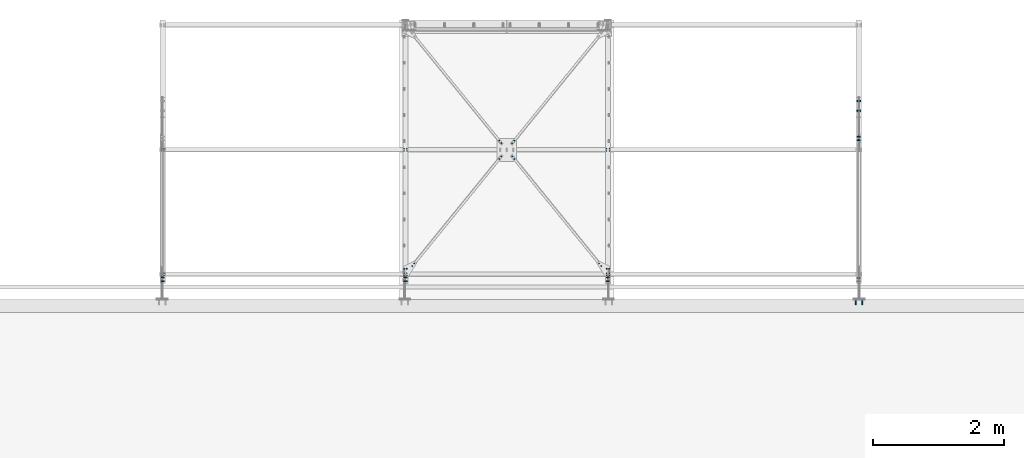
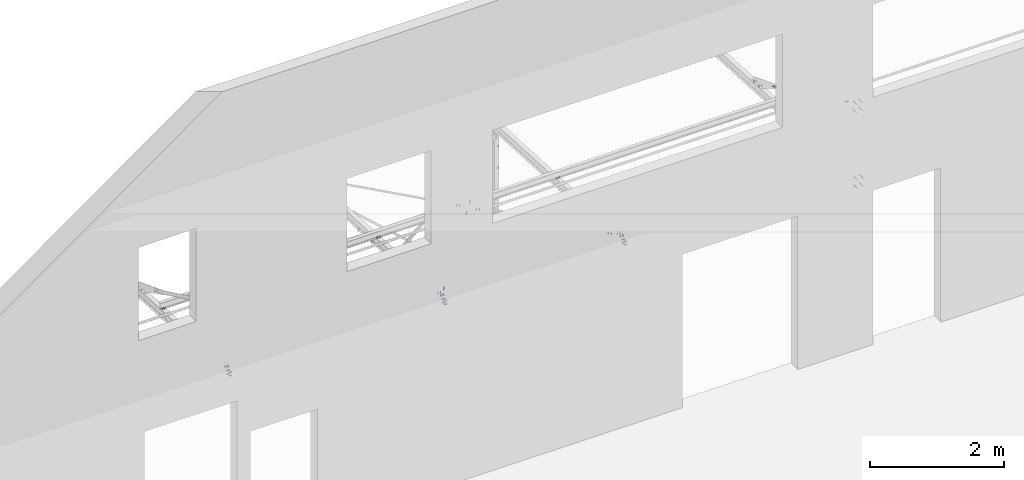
# One storey, part 7 of 10: 31 mechanical fasteners.
"""IFC2X3 building model written with IfcOpenShell, lengths in millimetres."""

from ifc_helpers import new_model, si_unit, frame, origin_with_axes, origin_2d_with_axis, place, context, subcontext, project, spatial, polyline, circle, outline, extrude, source, transform, mapped, material, type_object, element, save


model = new_model("IFC2X3")

# Units and contexts
model_context = context("Model", 3, precision=1e-05, world=origin_with_axes())
body_context = subcontext(model_context, "Body", "Model", "MODEL_VIEW")
ifc_project = project(units=[si_unit("LENGTHUNIT", "METRE", prefix="MILLI"), si_unit("AREAUNIT", "SQUARE_METRE"), si_unit("VOLUMEUNIT", "CUBIC_METRE"), si_unit("MASSUNIT", "GRAM", prefix="KILO"), si_unit("TIMEUNIT", "SECOND"), si_unit("PLANEANGLEUNIT", "RADIAN"), si_unit("SOLIDANGLEUNIT", "STERADIAN"), si_unit("THERMODYNAMICTEMPERATUREUNIT", "DEGREE_CELSIUS"), si_unit("LUMINOUSINTENSITYUNIT", "LUMEN")], contexts=[model_context])

# Site, building, storey
site_placement = place(None, origin_with_axes())
site = spatial("IfcSite", under=ifc_project, at=site_placement, Name="Undefined", CompositionType="ELEMENT")
building_placement = place(site_placement, origin_with_axes())
building = spatial("IfcBuilding", under=site, at=building_placement, Name="Undefined", CompositionType="ELEMENT")
storey_placement = place(building_placement, origin_with_axes())
storey = spatial("IfcBuildingStorey", under=building, at=storey_placement, Name="Undefined", CompositionType="ELEMENT", Elevation=0.0)

# Mechanical fasteners
ifc_material_1 = material(Name="6.8")
mechanical_fastener_type = type_object("IfcMechanicalFastenerType", Name="Bolt assembly")
shared_shape_1 = source(origin_with_axes(), body_context, "Body", "SweptSolid", [
    extrude(circle(Radius=6.0, at=origin_2d_with_axis()), frame((0.0, -0.100005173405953, 0.0), z_axis=(0.0, 1.0, 0.0), x_axis=(1.0, 0.0, 0.0)), (0.0, 0.0, 1.0), 7.5),
    extrude(circle(Radius=6.0, at=origin_2d_with_axis()), frame((0.0, -2.4000000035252, 0.0), z_axis=(0.0, 1.0, 0.0), x_axis=(1.0, 0.0, 0.0)), (0.0, 0.0, 1.0), 5.0),
    extrude(outline(polyline([(9.81495457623, 0.0), (4.907477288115, 8.5000000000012), (-4.907477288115, 8.5000000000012), (-9.81495457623, 0.0), (-4.907477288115, -8.5000000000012), (4.907477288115, -8.5000000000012), (9.81495457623, 0.0)])), frame((0.0, -9.99999892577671, 0.0), z_axis=(0.0, 1.0, 0.0), x_axis=(1.0, 0.0, 0.0)), (0.0, 0.0, 1.0), 7.5),
    extrude(circle(Radius=5.0, at=origin_2d_with_axis()), frame((0.0, -2.5000000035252, 0.0), z_axis=(0.0, 1.0, 0.0), x_axis=(1.0, 0.0, 0.0)), (0.0, 0.0, 1.0), 30.0),
    extrude(outline(polyline([(9.23760430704, 0.0), (4.61880215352, 8.00000000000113), (-4.61880215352, 8.00000000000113), (-9.23760430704, 0.0), (-4.61880215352, -8.00000000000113), (4.61880215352, -8.00000000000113), (9.23760430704, 0.0)])), frame((0.0, 7.40000130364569, 0.0), z_axis=(0.0, 1.0, 0.0), x_axis=(1.0, 0.0, 0.0)), (0.0, 0.0, 1.0), 8.4),
])
for number, where, z_axis, x_axis, name in (
    (1, (28902.9999597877, 25511.1982734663, 3033.3181840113), (1.0, 0.0, 0.0), (0.0, -0.998630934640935, 0.0523092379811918), "Bolt assembly"),
    (2, (32002.9999597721, 25511.1982472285, 3033.31818538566), (1.0, 0.0, 0.0), (0.0, -0.998630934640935, 0.0523092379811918), "Bolt assembly"),
):
    element("IfcMechanicalFastener", number, at=place(storey_placement, frame(where, z_axis=z_axis, x_axis=x_axis)), inside=storey, type_object=mechanical_fastener_type, material=ifc_material_1, Name=name, NominalDiameter=10.0, NominalLength=30.0, context=body_context, shape_type="MappedRepresentation", body=[
        mapped(shared_shape_1, transform((0.0, 0.0, -21.0))),
        mapped(shared_shape_1, transform((0.0, 0.0, 21.0))),
    ])
ifc_material_2 = material(Name="8.8-SB-GALVA")
shared_shape_2 = source(origin_with_axes(), body_context, "Body", "SweptSolid", [
    extrude(circle(Radius=7.0, at=origin_2d_with_axis()), frame((0.0, -6.89999965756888, 0.0), z_axis=(0.0, 1.0, 0.0), x_axis=(1.0, 0.0, 0.0)), (0.0, 0.0, 1.0), 4.0),
    extrude(circle(Radius=7.0, at=origin_2d_with_axis()), frame((0.0, -2.60000006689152, 0.0), z_axis=(0.0, 1.0, 0.0), x_axis=(1.0, 0.0, 0.0)), (0.0, 0.0, 1.0), 5.1),
    extrude(outline(polyline([(10.39230484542, 0.0), (5.19615242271, 9.00000000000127), (-5.19615242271, 9.00000000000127), (-10.39230484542, 0.0), (-5.19615242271, -9.00000000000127), (5.19615242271, -9.00000000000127), (10.39230484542, 0.0)])), frame((0.0, -14.9199996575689, 0.0), z_axis=(0.0, 1.0, 0.0), x_axis=(1.0, 0.0, 0.0)), (0.0, 0.0, 1.0), 7.92),
    extrude(circle(Radius=6.0, at=origin_2d_with_axis()), frame((0.0, -6.99999965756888, 0.0), z_axis=(0.0, 1.0, 0.0), x_axis=(1.0, 0.0, 0.0)), (0.0, 0.0, 1.0), 30.0),
    extrude(outline(polyline([(11.5008173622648, 0.0), (5.7504086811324, 9.96000000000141), (-5.7504086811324, 9.96000000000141), (-11.5008173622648, 0.0), (-5.7504086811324, -9.96000000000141), (5.7504086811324, -9.96000000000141), (11.5008173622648, 0.0)])), frame((0.0, 2.49999993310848, 0.0), z_axis=(0.0, 1.0, 0.0), x_axis=(1.0, 0.0, 0.0)), (0.0, 0.0, 1.0), 7.92),
])
for number, where, z_axis, x_axis, name in (
    (3, (29006.789686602, 25552.9467329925, 3031.13135888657), (-0.776487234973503, 0.629270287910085, -0.0329617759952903), (0.630132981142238, 0.775424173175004, -0.0406174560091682), "Bolt assembly"),
    (4, (31899.2102518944, 25552.9467522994, 3031.13135787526), (-0.776487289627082, -0.629270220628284, 0.032961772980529), (-0.63013291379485, 0.77542422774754, -0.0406174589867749), "Bolt assembly"),
):
    element("IfcMechanicalFastener", number, at=place(storey_placement, frame(where, z_axis=z_axis, x_axis=x_axis)), inside=storey, type_object=mechanical_fastener_type, material=ifc_material_2, Name=name, NominalDiameter=12.0, NominalLength=30.0, context=body_context, shape_type="MappedRepresentation", body=[
        mapped(shared_shape_2, transform((0.0, 0.0, 0.0))),
        mapped(shared_shape_2, transform((50.00000000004, 0.0, 1.45519152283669e-10))),
    ])
shared_shape_3 = source(origin_with_axes(), body_context, "Body", "SweptSolid", [
    extrude(circle(Radius=7.0, at=origin_2d_with_axis()), frame((0.0, -6.89999965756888, 0.0), z_axis=(0.0, 1.0, 0.0), x_axis=(1.0, 0.0, 0.0)), (0.0, 0.0, 1.0), 4.0),
    extrude(circle(Radius=7.0, at=origin_2d_with_axis()), frame((0.0, -0.100005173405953, 0.0), z_axis=(0.0, 1.0, 0.0), x_axis=(1.0, 0.0, 0.0)), (0.0, 0.0, 1.0), 5.1),
    extrude(outline(polyline([(10.39230484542, 0.0), (5.19615242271, 9.00000000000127), (-5.19615242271, 9.00000000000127), (-10.39230484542, 0.0), (-5.19615242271, -9.00000000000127), (5.19615242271, -9.00000000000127), (10.39230484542, 0.0)])), frame((0.0, -14.9199996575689, 0.0), z_axis=(0.0, 1.0, 0.0), x_axis=(1.0, 0.0, 0.0)), (0.0, 0.0, 1.0), 7.92),
    extrude(circle(Radius=6.0, at=origin_2d_with_axis()), frame((0.0, -6.99999965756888, 0.0), z_axis=(0.0, 1.0, 0.0), x_axis=(1.0, 0.0, 0.0)), (0.0, 0.0, 1.0), 30.0),
    extrude(outline(polyline([(11.5008173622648, 0.0), (5.7504086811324, 9.96000000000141), (-5.7504086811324, 9.96000000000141), (-11.5008173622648, 0.0), (-5.7504086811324, -9.96000000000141), (5.7504086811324, -9.96000000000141), (11.5008173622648, 0.0)])), frame((0.0, 4.99999482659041, 0.0), z_axis=(0.0, 1.0, 0.0), x_axis=(1.0, 0.0, 0.0)), (0.0, 0.0, 1.0), 7.92),
])
for number, where, z_axis, x_axis, name in (
    (5, (30536.4557555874, 27229.9146393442, 2943.29018419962), (0.776487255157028, 0.629270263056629, -0.0329617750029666), (0.630132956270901, -0.775424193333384, 0.0406174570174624), "Bolt assembly"),
    (6, (30536.4557762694, 27435.3114565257, 2932.53130346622), (-0.776487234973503, 0.629270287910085, -0.0329617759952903), (0.630132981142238, 0.775424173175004, -0.0406174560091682), "Bolt assembly"),
    (7, (30369.5441302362, 27435.3114557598, 2932.53130350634), (-0.776487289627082, -0.629270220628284, 0.032961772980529), (-0.63013291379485, 0.77542422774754, -0.0406174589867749), "Bolt assembly"),
    (8, (30369.544155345, 27229.9146377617, 2943.29018428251), (0.776487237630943, -0.629270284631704, 0.0329617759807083), (-0.630132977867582, -0.775424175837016, 0.0406174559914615), "Bolt assembly"),
):
    element("IfcMechanicalFastener", number, at=place(storey_placement, frame(where, z_axis=z_axis, x_axis=x_axis)), inside=storey, type_object=mechanical_fastener_type, material=ifc_material_2, Name=name, NominalDiameter=12.0, NominalLength=30.0, context=body_context, shape_type="MappedRepresentation", body=[
        mapped(shared_shape_3, transform((0.0, 0.0, 0.0))),
        mapped(shared_shape_3, transform((50.00000000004, 0.0, 1.45519152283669e-10))),
    ])
shared_shape_4 = source(origin_with_axes(), body_context, "Body", "SweptSolid", [
    extrude(circle(Radius=6.0, at=origin_2d_with_axis()), frame((0.0, -0.100005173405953, 0.0), z_axis=(0.0, 1.0, 0.0), x_axis=(1.0, 0.0, 0.0)), (0.0, 0.0, 1.0), 7.5),
    extrude(circle(Radius=6.0, at=origin_2d_with_axis()), frame((0.0, -6.19999893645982, 0.0), z_axis=(0.0, 1.0, 0.0), x_axis=(1.0, 0.0, 0.0)), (0.0, 0.0, 1.0), 6.3),
    extrude(outline(polyline([(9.81495457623, 0.0), (4.907477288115, 8.5000000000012), (-4.907477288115, 8.5000000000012), (-9.81495457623, 0.0), (-4.907477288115, -8.5000000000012), (4.907477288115, -8.5000000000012), (9.81495457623, 0.0)])), frame((0.0, -13.7999989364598, 0.0), z_axis=(0.0, 1.0, 0.0), x_axis=(1.0, 0.0, 0.0)), (0.0, 0.0, 1.0), 7.5),
    extrude(circle(Radius=5.0, at=origin_2d_with_axis()), frame((0.0, -6.29999893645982, 0.0), z_axis=(0.0, 1.0, 0.0), x_axis=(1.0, 0.0, 0.0)), (0.0, 0.0, 1.0), 30.0),
    extrude(outline(polyline([(9.23760430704, 0.0), (4.61880215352, 8.00000000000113), (-4.61880215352, 8.00000000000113), (-9.23760430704, 0.0), (-4.61880215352, -8.00000000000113), (4.61880215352, -8.00000000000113), (9.23760430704, 0.0)])), frame((0.0, 7.40000130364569, 0.0), z_axis=(0.0, 1.0, 0.0), x_axis=(1.0, 0.0, 0.0)), (0.0, 0.0, 1.0), 8.4),
])
for number, where, z_axis, x_axis, name in (
    (9, (25163.9999692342, 25425.2259809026, 3037.82149495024), (-6.99999093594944e-09, 0.998630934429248, -0.0523092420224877), (1.0, 0.0, 0.0), "Bolt assembly"),
    (10, (25163.9999692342, 27332.6130088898, 2937.91074741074), (-6.99999093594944e-09, 0.998630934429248, -0.0523092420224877), (1.0, 0.0, 0.0), "Bolt assembly"),
    (11, (28881.9999389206, 27332.6130361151, 2937.91074598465), (-6.99999093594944e-09, 0.998630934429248, -0.0523092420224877), (1.0, 0.0, 0.0), "Bolt assembly"),
    (12, (32023.9999692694, 27332.6130583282, 2937.91074482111), (0.0, -0.998630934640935, 0.0523092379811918), (-1.0, 0.0, 0.0), "Bolt assembly"),
):
    element("IfcMechanicalFastener", number, at=place(storey_placement, frame(where, z_axis=z_axis, x_axis=x_axis)), inside=storey, type_object=mechanical_fastener_type, material=ifc_material_1, Name=name, NominalDiameter=10.0, NominalLength=30.0, context=body_context, shape_type="MappedRepresentation", body=[
        mapped(shared_shape_4, transform((0.0, 3.18323145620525e-11, -16.9999999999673))),
        mapped(shared_shape_4, transform((42.0, 3.18323145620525e-11, -16.9999999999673))),
        mapped(shared_shape_4, transform((0.0, -3.18323145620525e-11, 16.9999999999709))),
        mapped(shared_shape_4, transform((42.0, -3.18323145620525e-11, 16.9999999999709))),
    ])
shared_shape_5 = source(origin_with_axes(), body_context, "Body", "SweptSolid", [
    extrude(circle(Radius=6.0, at=origin_2d_with_axis()), frame((0.0, -0.100005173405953, 0.0), z_axis=(0.0, 1.0, 0.0), x_axis=(1.0, 0.0, 0.0)), (0.0, 0.0, 1.0), 7.5),
    extrude(circle(Radius=6.0, at=origin_2d_with_axis()), frame((0.0, -6.19999893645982, 0.0), z_axis=(0.0, 1.0, 0.0), x_axis=(1.0, 0.0, 0.0)), (0.0, 0.0, 1.0), 6.3),
    extrude(circle(Radius=6.0, at=origin_2d_with_axis()), frame((0.0, -2.5000000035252, 0.0), z_axis=(0.0, 1.0, 0.0), x_axis=(1.0, 0.0, 0.0)), (0.0, 0.0, 1.0), 5.0),
    extrude(outline(polyline([(9.81495457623, 0.0), (4.907477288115, 8.5000000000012), (-4.907477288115, 8.5000000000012), (-9.81495457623, 0.0), (-4.907477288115, -8.5000000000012), (4.907477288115, -8.5000000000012), (9.81495457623, 0.0)])), frame((0.0, -13.7999989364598, 0.0), z_axis=(0.0, 1.0, 0.0), x_axis=(1.0, 0.0, 0.0)), (0.0, 0.0, 1.0), 7.5),
    extrude(circle(Radius=5.0, at=origin_2d_with_axis()), frame((0.0, -6.29999893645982, 0.0), z_axis=(0.0, 1.0, 0.0), x_axis=(1.0, 0.0, 0.0)), (0.0, 0.0, 1.0), 30.0),
    extrude(outline(polyline([(9.23760430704, 0.0), (4.61880215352, 8.00000000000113), (-4.61880215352, 8.00000000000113), (-9.23760430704, 0.0), (-4.61880215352, -8.00000000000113), (4.61880215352, -8.00000000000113), (9.23760430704, 0.0)])), frame((0.0, 7.40000130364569, 0.0), z_axis=(0.0, 1.0, 0.0), x_axis=(1.0, 0.0, 0.0)), (0.0, 0.0, 1.0), 8.4),
])
for number, where, z_axis, x_axis, name in (
    (13, (28881.9999389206, 25425.2260303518, 3037.8214923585), (-6.99999093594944e-09, 0.998630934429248, -0.0523092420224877), (1.0, 0.0, 0.0), "Bolt assembly"),
    (14, (32023.9999692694, 25425.2260303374, 3037.82149236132), (0.0, -0.998630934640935, 0.0523092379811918), (-1.0, 0.0, 0.0), "Bolt assembly"),
):
    element("IfcMechanicalFastener", number, at=place(storey_placement, frame(where, z_axis=z_axis, x_axis=x_axis)), inside=storey, type_object=mechanical_fastener_type, material=ifc_material_1, Name=name, NominalDiameter=10.0, NominalLength=30.0, context=body_context, shape_type="MappedRepresentation", body=[
        mapped(shared_shape_5, transform((0.0, 3.18323145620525e-11, -16.9999999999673))),
        mapped(shared_shape_5, transform((42.0, 3.18323145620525e-11, -16.9999999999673))),
        mapped(shared_shape_5, transform((0.0, -3.18323145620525e-11, 16.9999999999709))),
        mapped(shared_shape_5, transform((42.0, -3.18323145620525e-11, 16.9999999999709))),
    ])
ifc_material_3 = material(Name="HILTI-HSA-R")
shared_shape_6 = source(origin_with_axes(), body_context, "Body", "SweptSolid", [
    extrude(circle(Radius=7.0, at=origin_2d_with_axis()), frame((0.0, -9.99992439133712, 0.0), z_axis=(0.0, 1.0, 0.0), x_axis=(1.0, 0.0, 0.0)), (0.0, 0.0, 1.0), 10.1),
    extrude(outline(polyline([(10.39230484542, 0.0), (5.19615242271, 9.00000000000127), (-5.19615242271, 9.00000000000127), (-10.39230484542, 0.0), (-5.19615242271, -9.00000000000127), (5.19615242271, -9.00000000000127), (10.39230484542, 0.0)])), frame((0.0, -17.9199243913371, 0.0), z_axis=(0.0, 1.0, 0.0), x_axis=(1.0, 0.0, 0.0)), (0.0, 0.0, 1.0), 7.92),
    extrude(circle(Radius=6.0, at=origin_2d_with_axis()), frame((0.0, -9.99992439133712, 0.0), z_axis=(0.0, 1.0, 0.0), x_axis=(1.0, 0.0, 0.0)), (0.0, 0.0, 1.0), 89.2),
    extrude(outline(polyline([(11.5008173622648, 0.0), (5.7504086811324, 9.96000000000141), (-5.7504086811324, 9.96000000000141), (-11.5008173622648, 0.0), (-5.7504086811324, -9.96000000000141), (5.7504086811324, -9.96000000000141), (11.5008173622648, 0.0)])), frame((0.0, 7.56086665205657e-05, 0.0), z_axis=(0.0, 1.0, 0.0), x_axis=(1.0, 0.0, 0.0)), (0.0, 0.0, 1.0), 7.92),
])
for number, where, z_axis, x_axis, name in (
    (15, (35852.9999703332, 25039.9999998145, 3000.00032537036), (-1.0, 0.0, 0.0), (1.80000123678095e-08, 0.0, -1.0), "Bolt assembly"),
    (16, (35842.9999703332, 25039.9999997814, 4380.00032537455), (-1.0, 0.0, 0.0), (1.80000123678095e-08, 0.0, -1.0), "Bolt assembly"),
):
    element("IfcMechanicalFastener", number, at=place(storey_placement, frame(where, z_axis=z_axis, x_axis=x_axis)), inside=storey, type_object=mechanical_fastener_type, material=ifc_material_3, Name=name, NominalDiameter=12.0, NominalLength=89.1999969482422, context=body_context, shape_type="MappedRepresentation", body=[
        mapped(shared_shape_6, transform((0.0, 0.0, -50.0))),
        mapped(shared_shape_6, transform((150.0, 0.0, -50.0))),
        mapped(shared_shape_6, transform((0.0, 0.0, 50.0))),
        mapped(shared_shape_6, transform((150.0, 0.0, 50.0))),
    ])
shared_shape_7 = source(origin_with_axes(), body_context, "Body", "SweptSolid", [
    extrude(circle(Radius=7.0, at=origin_2d_with_axis()), frame((0.0, -2.60005959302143, 0.0), z_axis=(0.0, 1.0, 0.0), x_axis=(1.0, 0.0, 0.0)), (0.0, 0.0, 1.0), 5.1),
    extrude(circle(Radius=7.0, at=origin_2d_with_axis()), frame((0.0, -14.9, 0.0), z_axis=(0.0, 1.0, 0.0), x_axis=(1.0, 0.0, 0.0)), (0.0, 0.0, 1.0), 10.0),
    extrude(outline(polyline([(10.39230484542, 0.0), (5.19615242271, 9.00000000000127), (-5.19615242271, 9.00000000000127), (-10.39230484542, 0.0), (-5.19615242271, -9.00000000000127), (5.19615242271, -9.00000000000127), (10.39230484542, 0.0)])), frame((0.0, -22.92, 0.0), z_axis=(0.0, 1.0, 0.0), x_axis=(1.0, 0.0, 0.0)), (0.0, 0.0, 1.0), 7.92),
    extrude(circle(Radius=6.0, at=origin_2d_with_axis()), frame((0.0, -15.0, 0.0), z_axis=(0.0, 1.0, 0.0), x_axis=(1.0, 0.0, 0.0)), (0.0, 0.0, 1.0), 40.0),
    extrude(outline(polyline([(11.5008173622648, 0.0), (5.7504086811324, 9.96000000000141), (-5.7504086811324, 9.96000000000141), (-11.5008173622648, 0.0), (-5.7504086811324, -9.96000000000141), (5.7504086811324, -9.96000000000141), (11.5008173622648, 0.0)])), frame((0.0, 2.49994040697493, 0.0), z_axis=(0.0, 1.0, 0.0), x_axis=(1.0, 0.0, 0.0)), (0.0, 0.0, 1.0), 7.92),
])
for number, where, z_axis, x_axis, name in (
    (17, (28903.0000296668, 25320.0, 2993.26478427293), (0.0, 1.0, 0.0), (0.0, 0.0, 1.0), "Bolt assembly"),
    (18, (28903.0000296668, 25380.0, 2990.12192721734), (0.0, 1.0, 0.0), (0.0, 0.0, 1.0), "Bolt assembly"),
    (19, (28903.0000296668, 25320.0, 2933.18252773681), (-8.92000021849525e-07, -0.999999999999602, 0.0), (1.80000123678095e-08, 0.0, -1.0), "Bolt assembly"),
    (20, (28903.0000296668, 25380.0, 2930.03967068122), (-8.92000021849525e-07, -0.999999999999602, 0.0), (1.80000123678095e-08, 0.0, -1.0), "Bolt assembly"),
    (21, (25185.0000296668, 25320.0, 2993.26478427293), (0.0, 1.0, 0.0), (0.0, 0.0, 1.0), "Bolt assembly"),
    (22, (25185.0000296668, 25380.0, 2990.12192721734), (0.0, 1.0, 0.0), (0.0, 0.0, 1.0), "Bolt assembly"),
    (23, (25185.0000296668, 25320.0, 2933.18252773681), (-8.92000021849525e-07, -0.999999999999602, 0.0), (1.80000123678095e-08, 0.0, -1.0), "Bolt assembly"),
    (24, (25185.0000296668, 25380.0, 2930.03967068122), (-8.92000021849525e-07, -0.999999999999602, 0.0), (1.80000123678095e-08, 0.0, -1.0), "Bolt assembly"),
):
    element("IfcMechanicalFastener", number, at=place(storey_placement, frame(where, z_axis=z_axis, x_axis=x_axis)), inside=storey, type_object=mechanical_fastener_type, material=ifc_material_2, Name=name, NominalDiameter=12.0, NominalLength=40.0, context=body_context, shape_type="MappedRepresentation", body=[
        mapped(shared_shape_7, transform((0.0, 0.0, 0.0))),
    ])
shared_shape_8 = source(origin_with_axes(), body_context, "Body", "SweptSolid", [
    extrude(circle(Radius=7.0, at=origin_2d_with_axis()), frame((0.0, -2.60000006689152, 0.0), z_axis=(0.0, 1.0, 0.0), x_axis=(1.0, 0.0, 0.0)), (0.0, 0.0, 1.0), 5.1),
    extrude(circle(Radius=7.0, at=origin_2d_with_axis()), frame((0.0, -14.9, 0.0), z_axis=(0.0, 1.0, 0.0), x_axis=(1.0, 0.0, 0.0)), (0.0, 0.0, 1.0), 10.0),
    extrude(outline(polyline([(10.39230484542, 0.0), (5.19615242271, 9.00000000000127), (-5.19615242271, 9.00000000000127), (-10.39230484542, 0.0), (-5.19615242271, -9.00000000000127), (5.19615242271, -9.00000000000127), (10.39230484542, 0.0)])), frame((0.0, -22.92, 0.0), z_axis=(0.0, 1.0, 0.0), x_axis=(1.0, 0.0, 0.0)), (0.0, 0.0, 1.0), 7.92),
    extrude(circle(Radius=6.0, at=origin_2d_with_axis()), frame((0.0, -15.0, 0.0), z_axis=(0.0, 1.0, 0.0), x_axis=(1.0, 0.0, 0.0)), (0.0, 0.0, 1.0), 40.0),
    extrude(outline(polyline([(11.5008173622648, 0.0), (5.7504086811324, 9.96000000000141), (-5.7504086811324, 9.96000000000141), (-11.5008173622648, 0.0), (-5.7504086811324, -9.96000000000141), (5.7504086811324, -9.96000000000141), (11.5008173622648, 0.0)])), frame((0.0, 2.49999993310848, 0.0), z_axis=(0.0, 1.0, 0.0), x_axis=(1.0, 0.0, 0.0)), (0.0, 0.0, 1.0), 7.92),
])
for number, where, z_axis, x_axis, name in (
    (25, (32002.9999703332, 25320.0, 2993.26478427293), (-8.92000021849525e-07, -0.999999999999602, 0.0), (0.0, 0.0, 1.0), "Bolt assembly"),
    (26, (32002.9999703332, 25380.0, 2990.12192721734), (-8.92000021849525e-07, -0.999999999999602, 0.0), (0.0, 0.0, 1.0), "Bolt assembly"),
    (27, (32002.9999703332, 25320.0, 2933.18252773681), (0.0, 1.0, 0.0), (1.80000123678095e-08, 0.0, -1.0), "Bolt assembly"),
    (28, (32002.9999703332, 25380.0, 2930.03967068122), (0.0, 1.0, 0.0), (1.80000123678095e-08, 0.0, -1.0), "Bolt assembly"),
):
    element("IfcMechanicalFastener", number, at=place(storey_placement, frame(where, z_axis=z_axis, x_axis=x_axis)), inside=storey, type_object=mechanical_fastener_type, material=ifc_material_2, Name=name, NominalDiameter=12.0, NominalLength=40.0, context=body_context, shape_type="MappedRepresentation", body=[
        mapped(shared_shape_8, transform((0.0, 0.0, 0.0))),
    ])
shared_shape_9 = source(origin_with_axes(), body_context, "Body", "SweptSolid", [
    extrude(circle(Radius=7.0, at=origin_2d_with_axis()), frame((0.0, -0.100005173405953, 0.0), z_axis=(0.0, 1.0, 0.0), x_axis=(1.0, 0.0, 0.0)), (0.0, 0.0, 1.0), 7.5),
    extrude(circle(Radius=7.0, at=origin_2d_with_axis()), frame((0.0, -9.89999977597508, 0.0), z_axis=(0.0, 1.0, 0.0), x_axis=(1.0, 0.0, 0.0)), (0.0, 0.0, 1.0), 10.0),
    extrude(outline(polyline([(10.39230484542, 0.0), (5.19615242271, 9.00000000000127), (-5.19615242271, 9.00000000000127), (-10.39230484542, 0.0), (-5.19615242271, -9.00000000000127), (5.19615242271, -9.00000000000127), (10.39230484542, 0.0)])), frame((0.0, -17.9199997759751, 0.0), z_axis=(0.0, 1.0, 0.0), x_axis=(1.0, 0.0, 0.0)), (0.0, 0.0, 1.0), 7.92),
    extrude(circle(Radius=6.0, at=origin_2d_with_axis()), frame((0.0, -9.99999892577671, 0.0), z_axis=(0.0, 1.0, 0.0), x_axis=(1.0, 0.0, 0.0)), (0.0, 0.0, 1.0), 40.0),
    extrude(outline(polyline([(11.5008173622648, 0.0), (5.7504086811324, 9.96000000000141), (-5.7504086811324, 9.96000000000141), (-11.5008173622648, 0.0), (-5.7504086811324, -9.96000000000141), (5.7504086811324, -9.96000000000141), (11.5008173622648, 0.0)])), frame((0.0, 7.40000130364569, 0.0), z_axis=(0.0, 1.0, 0.0), x_axis=(1.0, 0.0, 0.0)), (0.0, 0.0, 1.0), 7.92),
])
mechanical_fastener_placement = place(storey_placement, frame((35842.9999694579, 27931.0560612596, 2906.56373229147), z_axis=(-1.0, 0.0, 0.0), x_axis=(-6.99999093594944e-09, 0.998630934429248, -0.0523092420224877)))
element("IfcMechanicalFastener", 29, at=mechanical_fastener_placement, inside=storey, type_object=mechanical_fastener_type, material=ifc_material_2, Name="Bolt assembly", NominalDiameter=12.0, NominalLength=40.0, context=body_context, shape_type="MappedRepresentation", body=[
    mapped(shared_shape_9, transform((0.0, 0.0, -21.0))),
    mapped(shared_shape_9, transform((150.000000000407, -1.25510268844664e-10, -21.0))),
    mapped(shared_shape_9, transform((0.0, 0.0, 21.0))),
    mapped(shared_shape_9, transform((150.000000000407, -1.25510268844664e-10, 21.0))),
])
shared_shape_10 = source(origin_with_axes(), body_context, "Body", "SweptSolid", [
    extrude(circle(Radius=7.0, at=origin_2d_with_axis()), frame((0.0, -5.1000000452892, 0.0), z_axis=(0.0, 1.0, 0.0), x_axis=(1.0, 0.0, 0.0)), (0.0, 0.0, 1.0), 10.1),
    extrude(circle(Radius=7.0, at=origin_2d_with_axis()), frame((0.0, -14.9, 0.0), z_axis=(0.0, 1.0, 0.0), x_axis=(1.0, 0.0, 0.0)), (0.0, 0.0, 1.0), 10.0),
    extrude(outline(polyline([(10.39230484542, 0.0), (5.19615242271, 9.00000000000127), (-5.19615242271, 9.00000000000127), (-10.39230484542, 0.0), (-5.19615242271, -9.00000000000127), (5.19615242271, -9.00000000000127), (10.39230484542, 0.0)])), frame((0.0, -22.92, 0.0), z_axis=(0.0, 1.0, 0.0), x_axis=(1.0, 0.0, 0.0)), (0.0, 0.0, 1.0), 7.92),
    extrude(circle(Radius=6.0, at=origin_2d_with_axis()), frame((0.0, -15.0, 0.0), z_axis=(0.0, 1.0, 0.0), x_axis=(1.0, 0.0, 0.0)), (0.0, 0.0, 1.0), 40.0),
    extrude(outline(polyline([(11.5008173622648, 0.0), (5.7504086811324, 9.96000000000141), (-5.7504086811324, 9.96000000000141), (-11.5008173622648, 0.0), (-5.7504086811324, -9.96000000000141), (5.7504086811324, -9.96000000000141), (11.5008173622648, 0.0)])), frame((0.0, 4.99999482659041, 0.0), z_axis=(0.0, 1.0, 0.0), x_axis=(1.0, 0.0, 0.0)), (0.0, 0.0, 1.0), 7.92),
])
for number, where, z_axis, x_axis, name in (
    (30, (35842.9999699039, 27534.9082722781, 3138.26147697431), (0.0, -0.431020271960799, -0.902342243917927), (0.0, -0.902342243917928, 0.431020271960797), "Bolt assembly"),
    (31, (35842.9999704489, 25321.5814429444, 4195.49750725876), (0.0, 0.431020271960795, 0.902342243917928), (0.0, 0.902342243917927, -0.431020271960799), "Bolt assembly"),
):
    element("IfcMechanicalFastener", number, at=place(storey_placement, frame(where, z_axis=z_axis, x_axis=x_axis)), inside=storey, type_object=mechanical_fastener_type, material=ifc_material_2, Name=name, NominalDiameter=12.0, NominalLength=40.0, context=body_context, shape_type="MappedRepresentation", body=[
        mapped(shared_shape_10, transform((0.0, 0.0, 0.0))),
        mapped(shared_shape_10, transform((59.9999999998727, 0.0, 2.18278728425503e-11))),
    ])

save(model, "model.ifc")
